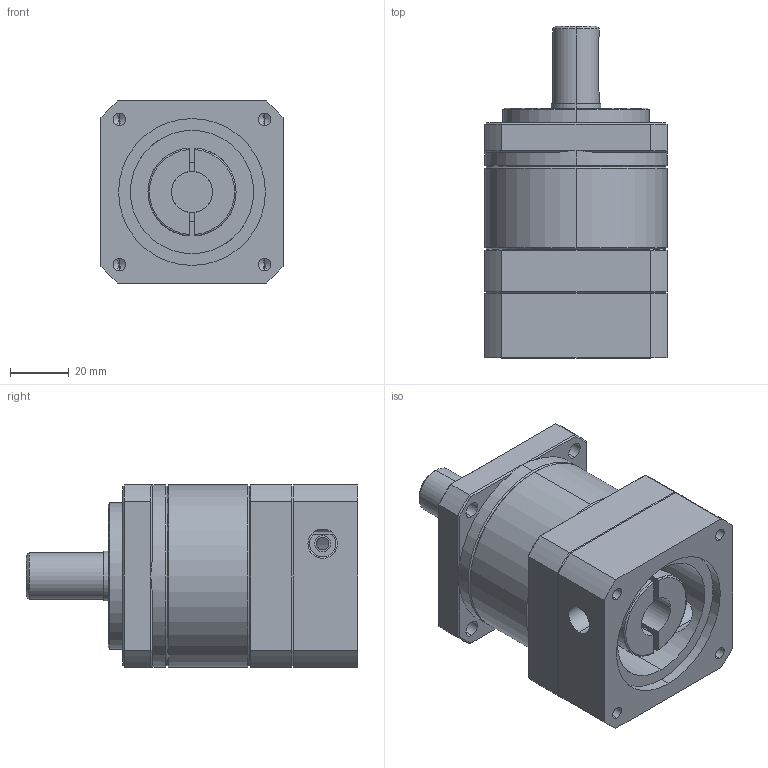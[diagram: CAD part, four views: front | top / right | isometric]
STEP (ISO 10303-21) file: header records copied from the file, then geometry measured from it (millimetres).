
FILE_DESCRIPTION (( 'STEP AP203' ), '1' );
FILE_NAME ('MF60X-L1£r50PCD£r70M5.STEP', '2014-03-31T07:30:17', ( 'KELLY' ), ( '' ), 'SwSTEP 2.0', 'SolidWorks 2012', '' );
FILE_SCHEMA (( 'CONFIG_CONTROL_DESIGN' ));
Length unit declared in the file: millimetre
Products named in the file (1): MF60X-L1｣r50PCD｣r70M5
Bounding box: 62 x 113 x 62 mm (x, y, z)
Volume: 250626.5 mm3; surface area: 45414.3 mm2
Topology: 2 solids, 2 shells, 170 faces, 408 edges, 247 vertices
Faces by surface type: cylinder 68, plane 62, cone 36, torus 4
Entity records: 5423 total; most frequent: CARTESIAN_POINT 1414, DIRECTION 838, ORIENTED_EDGE 796, EDGE_CURVE 398, AXIS2_PLACEMENT_3D 331, VERTEX_POINT 247, EDGE_LOOP 205, LINE 176
